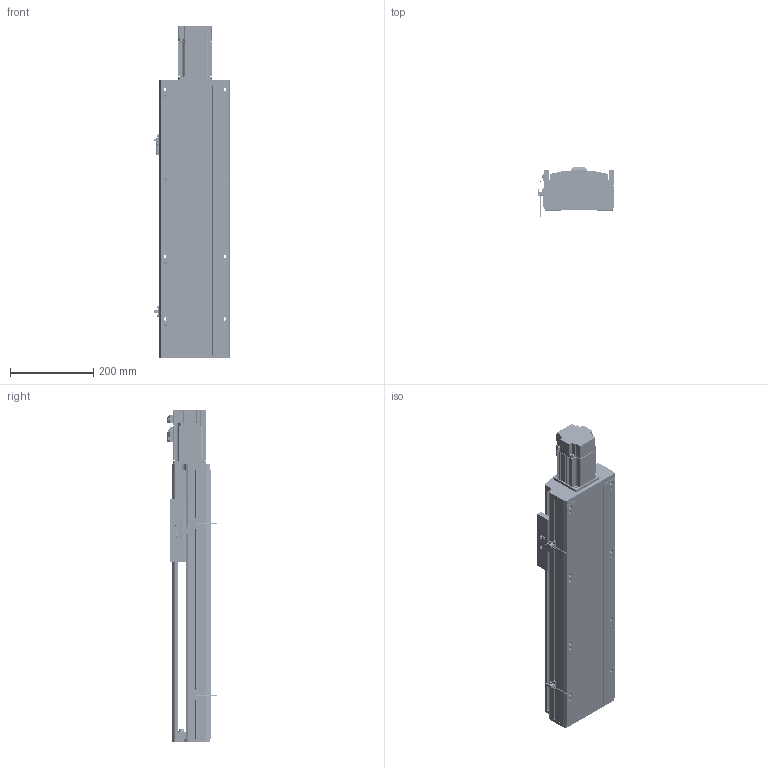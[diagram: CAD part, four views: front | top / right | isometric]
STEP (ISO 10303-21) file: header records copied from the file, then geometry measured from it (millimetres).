
FILE_DESCRIPTION (( 'STEP AP214' ), '1' );
FILE_NAME ('CTH170-400.STEP', '2019-11-25T08:51:09', ( '微软用户' ), ( '微软中国' ), 'SwSTEP 2.0', 'SolidWorks 2017', '' );
FILE_SCHEMA (( 'AUTOMOTIVE_DESIGN' ));
Length unit declared in the file: millimetre
Products named in the file (32): M3-L8囀鞠褒蹟佪; 80EMA-016A; EE-SX672峚倰換覜ん; 170萇儂啣; CT17耀郪-覜茼んえ; 170傷啣; M6-L20囀鞠褒蹟佪; EGH20CA; 蚾饜极3^CTH170-L10-200; M5-L20囀鞠褒蹟佪-BR L; M4-L10囀鞠褒蹟佪-BR L; M5-L10囀鞠褒蹟佪; 坶踡蹟簽M15x1; EGH20CA_BLOCK; 潔路遠COL15-A; EG20_RAIL; MISUMI_B7002-DB_盄俶絳砃粣; 170賑怢; BEARING_MISUMI_B7002-DB_盄俶絳砃粣; 170裔啣^CTH170-L10-200; 錨璃8^蚾饜极3_CTH170-L10-200; 錨璃2; 复件 轴承座^装配体3_CTH170-L10-200; 佪話盓傅釱^CTH170-L10-200; CTH170-400; M5-L16囀鞠褒蹟佪; 遣喳蝶15x12x8-BR L; 支撑座^丝杠支撑座_CTH170-L10-200; B6002Z; _C-BSST2005_n; SFS2005-411-SZC; SFH2010佪裝
Assembly tree (79 placements, depth 4):
  CTH170-400
    錨璃2
    170裔啣^CTH170-L10-200
    170賑怢
    EGH20CA  x2
      EG20_RAIL
      EGH20CA_BLOCK
      M5-L10囀鞠褒蹟佪
      M5-L20囀鞠褒蹟佪-BR L
    170傷啣
    170萇儂啣
    80EMA-016A
    SFS2005-411-SZC
      SFH2010佪裝
    _C-BSST2005_n
    佪話盓傅釱^CTH170-L10-200
      B6002Z
      支撑座^丝杠支撑座_CTH170-L10-200
      遣喳蝶15x12x8-BR L  x2
      M5-L16囀鞠褒蹟佪  x2
    蚾饜极3^CTH170-L10-200
      复件 轴承座^装配体3_CTH170-L10-200
      錨璃8^蚾饜极3_CTH170-L10-200
      MISUMI_B7002-DB_盄俶絳砃粣
        BEARING_MISUMI_B7002-DB_盄俶絳砃粣  x2
      潔路遠COL15-A  x2
      坶踡蹟簽M15x1
      M5-L16囀鞠褒蹟佪  x6
      M4-L10囀鞠褒蹟佪-BR L  x4
    遣喳蝶15x12x8-BR L  x2
    M6-L20囀鞠褒蹟佪  x4
    M4-L10囀鞠褒蹟佪-BR L  x10
    M5-L16囀鞠褒蹟佪  x4
    CT17耀郪-覜茼んえ
    EE-SX672峚倰換覜ん  x2
    M3-L8囀鞠褒蹟佪  x4
Bounding box: 183.7 x 117.95 x 796 mm (x, y, z)
Volume: 5015624.6 mm3; surface area: 1467992.5 mm2
Topology: 91 solids, 92 shells, 5543 faces, 14509 edges, 9254 vertices
Faces by surface type: plane 3102, cylinder 1442, cone 617, bspline 342, torus 40
Entity records: 98218 total; most frequent: CARTESIAN_POINT 20877, ORIENTED_EDGE 14100, DIRECTION 13717, EDGE_CURVE 7050, AXIS2_PLACEMENT_3D 4756, VERTEX_POINT 4582, LINE 4205, VECTOR 4205
